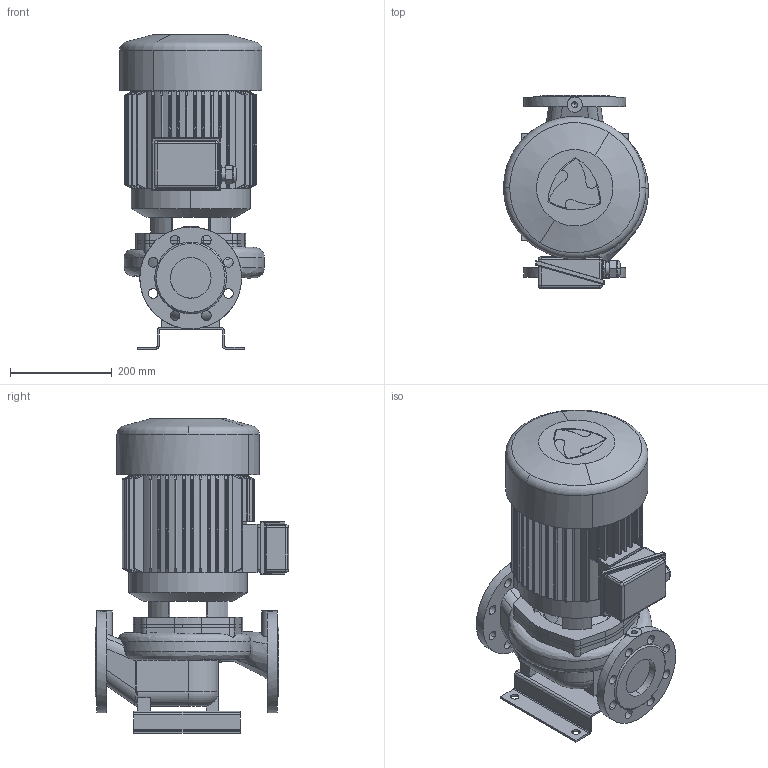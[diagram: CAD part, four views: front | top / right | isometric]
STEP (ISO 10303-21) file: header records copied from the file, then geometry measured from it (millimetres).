
FILE_DESCRIPTION(('STEP AP214'),'1');
FILE_NAME('export.stp','2018-05-29T07:08:22',(' '),(' '),'Spatial InterOp 3D',' ',' ');
FILE_SCHEMA(('AUTOMOTIVE_DESIGN { 1 0 10303 214 1 1 1 1 }'));
Length unit declared in the file: millimetre
Products named in the file (10): V_MOKN132; RU_OKN_132; TSUOJA_OKN_132_133; KYTKOTELO_OKN_100_133; V_Mkp-132_F19; V_EKF19OKN132; W_L80A2750_KP-132; V_TLL65AB80A1102; V_PPL80A; V_JALKA35973
Assembly tree (9 placements, depth 4):
  W_L80A2750_KP-132
    V_Mkp-132_F19
      V_MOKN132
        RU_OKN_132
        TSUOJA_OKN_132_133
        KYTKOTELO_OKN_100_133
      V_EKF19OKN132
    V_TLL65AB80A1102
    V_PPL80A
    V_JALKA35973
Bounding box: 285 x 379.5 x 617.5 mm (x, y, z)
Volume: 25114584.1 mm3; surface area: 1502221.2 mm2
Topology: 7 solids, 8 shells, 823 faces, 2182 edges, 1366 vertices
Faces by surface type: cylinder 372, plane 283, cone 94, bspline 48, torus 14, sphere 12
Entity records: 45698 total; most frequent: CARTESIAN_POINT 11554, ORIENTED_EDGE 4320, DIRECTION 3975, STYLED_ITEM 2370, PRESENTATION_STYLE_ASSIGNMENT 2370, COLOUR_RGB 2370, EDGE_CURVE 2160, AXIS2_PLACEMENT_3D 1577
